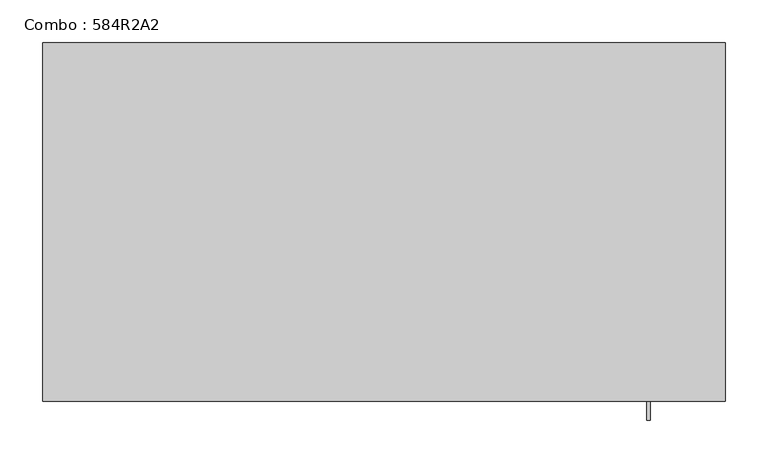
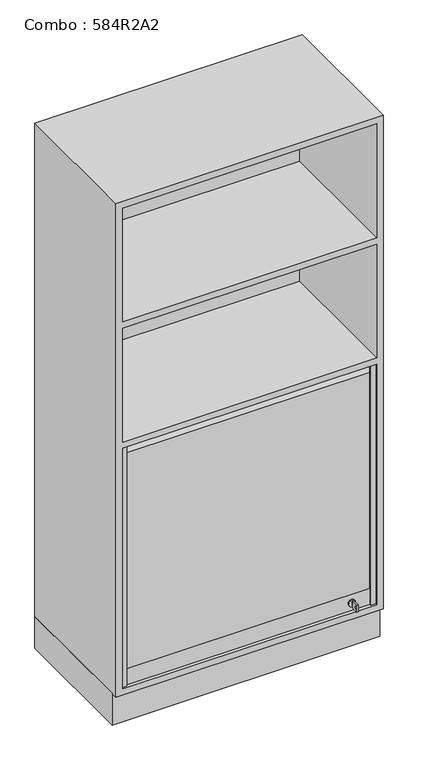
"""IFC4 building model written with IfcOpenShell, lengths in millimetres: furniture geometry, Combo : 584R2A2."""

from ifc_helpers import new_model, si_unit, point, frame, frame_2d, origin, origin_with_axes, place, context, project, spatial, polyline, circle_curve, trimmed, segment, composite_curve, outline, extrude, faceted_brep, source, transform, mapped, element, save


def combo_584r2a2_5a396519(model_context):
    return source(origin(), model_context, "Body", "SolidModel", [
        extrude(outline(polyline([(-400.0, -400.0), (-400.0, 0.0), (400.0, 0.0), (400.0, -400.0), (-400.0, -400.0)])), origin_with_axes(), (0.0, 0.0, 1.0), 100.0),
        extrude(outline(composite_curve([segment(trimmed(circle_curve(frame_2d((145.0, 310.0)), 10.0), [point((145.0, 300.0))], [point((145.0, 320.0))], False, "CARTESIAN"), True, "CONTINUOUS"), segment(trimmed(circle_curve(frame_2d((145.0, 310.0)), 10.0), [point((145.0, 320.0))], [point((145.0, 300.0))], False, "CARTESIAN"), True, "CONTINUOUS")], self_intersect=False)), frame((0.0, -414.0, 0.0), z_axis=(0.0, 1.0, 0.0), x_axis=(0.0, 0.0, 1.0)), (0.0, 0.0, 1.0), 4.0),
        extrude(outline(polyline([(-442.0, 134.014113), (-442.0, 156.0), (-420.0, 156.0), (-420.0, 134.014113), (-442.0, 134.014113)]), holes=[composite_curve([segment(trimmed(circle_curve(frame_2d((-435.75, 145.0070565)), 3.2230706), [point((-435.75, 148.2301271))], [point((-435.75, 141.7839859))], True, "CARTESIAN"), True, "CONTINUOUS"), segment(trimmed(circle_curve(frame_2d((-435.75, 145.0070565)), 3.2230706), [point((-435.75, 141.7839859))], [point((-435.75, 148.2301271))], True, "CARTESIAN"), True, "CONTINUOUS")], self_intersect=False)]), frame((308.0, 0.0, 0.0), z_axis=(1.0, 0.0, 0.0), x_axis=(0.0, 1.0, 0.0)), (0.0, 0.0, 1.0), 4.0416064),
        extrude(outline(polyline([(311.0416064, -420.0), (309.0, -420.0), (309.0, -414.0), (311.0416064, -414.0), (311.0416064, -420.0)])), frame((0.0, 0.0, 141.014113), z_axis=(0.0, 0.0, 1.0), x_axis=(1.0, 0.0, 0.0)), (0.0, 0.0, 1.0), 7.985887),
        extrude(outline(polyline([(380.0, -400.0), (380.0, -410.0), (-380.0, -410.0), (-380.0, -400.0), (380.0, -400.0)])), frame((0.0, 0.0, 120.0), z_axis=(0.0, 0.0, 1.0), x_axis=(1.0, 0.0, 0.0)), (0.0, 0.0, 1.0), 50.0),
        extrude(outline(polyline([(-365.0, -415.0), (-380.0, -415.0), (-380.0, -410.0), (-365.0, -410.0), (-365.0, -415.0)])), frame((0.0, 0.0, 120.0), z_axis=(0.0, 0.0, 1.0), x_axis=(1.0, 0.0, 0.0)), (0.0, 0.0, 1.0), 760.0),
        extrude(outline(polyline([(380.0, -415.0), (365.0, -415.0), (365.0, -410.0), (380.0, -410.0), (380.0, -415.0)])), frame((0.0, 0.0, 120.0), z_axis=(0.0, 0.0, 1.0), x_axis=(1.0, 0.0, 0.0)), (0.0, 0.0, 1.0), 760.0),
        extrude(outline(composite_curve([segment(trimmed(circle_curve(frame_2d((-390.0, 854.0)), 20.0), [point((-410.0, 854.0))], [point((-390.0, 874.0))], False, "CARTESIAN"), True, "CONTINUOUS"), segment(polyline([(-390.0, 874.0), (-360.0, 874.0), (-360.0, 864.0), (-390.0, 864.0)]), True, "CONTINUOUS"), segment(trimmed(circle_curve(frame_2d((-390.0, 854.0)), 10.0), [point((-390.0, 864.0))], [point((-400.0, 854.0))], True, "CARTESIAN"), True, "CONTINUOUS"), segment(polyline([(-400.0, 854.0), (-400.0, 170.0), (-410.0, 170.0), (-410.0, 854.0)]), True, "CONTINUOUS")], self_intersect=False)), frame((-380.0, 0.0, 0.0), z_axis=(1.0, 0.0, 0.0), x_axis=(0.0, 1.0, 0.0)), (0.0, 0.0, 1.0), 760.0),
        faceted_brep([(400.0, 0.0, 1660.0), (-400.0, 0.0, 1660.0), (-400.0, -420.0, 1660.0), (400.0, -420.0, 1660.0), (-400.0, 0.0, 100.0), (400.0, 0.0, 100.0), (400.0, -420.0, 100.0), (-400.0, -420.0, 100.0), (-380.0, -420.0, 900.0), (-380.0, -420.0, 1260.0), (380.0, -420.0, 1260.0), (380.0, -420.0, 900.0), (380.0, -420.0, 1640.0), (380.0, -420.0, 1280.0), (-380.0, -420.0, 1280.0), (-380.0, -420.0, 1640.0), (380.0, -420.0, 880.0), (380.0, -420.0, 120.0), (-380.0, -420.0, 120.0), (-380.0, -420.0, 880.0), (380.0, -20.0, 1640.0), (380.0, -20.0, 1280.0), (-380.0, -20.0, 900.0), (-380.0, -20.0, 1260.0), (380.0, -20.0, 900.0), (-380.0, -20.0, 1280.0), (-380.0, -20.0, 1640.0), (-380.0, -20.0, 120.0), (380.0, -20.0, 120.0), (380.0, -20.0, 880.0), (-380.0, -20.0, 880.0), (380.0, -20.0, 1260.0)], [[[0, 1, 2, 3]], [[4, 5, 6, 7]], [[1, 0, 5, 4]], [[2, 1, 4, 7]], [[3, 2, 7, 6], [8, 9, 10, 11], [12, 13, 14, 15], [16, 17, 18, 19]], [[0, 3, 6, 5]], [[20, 21, 13, 12]], [[22, 23, 9, 8]], [[24, 22, 8, 11]], [[25, 26, 15, 14]], [[27, 28, 29, 30]], [[29, 28, 17, 16]], [[27, 30, 19, 18]], [[28, 27, 18, 17]], [[30, 29, 16, 19]], [[24, 31, 23, 22]], [[31, 24, 11, 10]], [[23, 31, 10, 9]], [[21, 20, 26, 25]], [[26, 20, 12, 15]], [[21, 25, 14, 13]]]),
    ])


if __name__ == "__main__":
    model = new_model("IFC4")
    model_context = context("Model", 3, world=origin())
    ifc_project = project(units=[si_unit("LENGTHUNIT", "METRE", prefix="MILLI")], contexts=[model_context])
    site = spatial("IfcSite", under=ifc_project)
    building = spatial("IfcBuilding", under=site)
    placement = place(None, origin())
    combo_584r2a2_shape = combo_584r2a2_5a396519(model_context)
    element("IfcFurniture", 1, ObjectType="Combo : 584R2A2", at=placement, inside=building, context=model_context, shape_type="MappedRepresentation", body=[
        mapped(combo_584r2a2_shape, transform((0.0, 0.0, 0.0), x_axis=(1.0, 0.0, 0.0), y_axis=(0.0, 1.0, 0.0), z_axis=(0.0, 0.0, 1.0))),
    ])
    save(model, "model.ifc")
